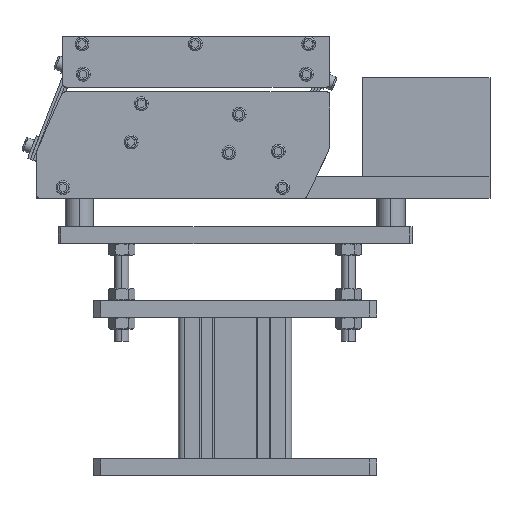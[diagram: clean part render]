
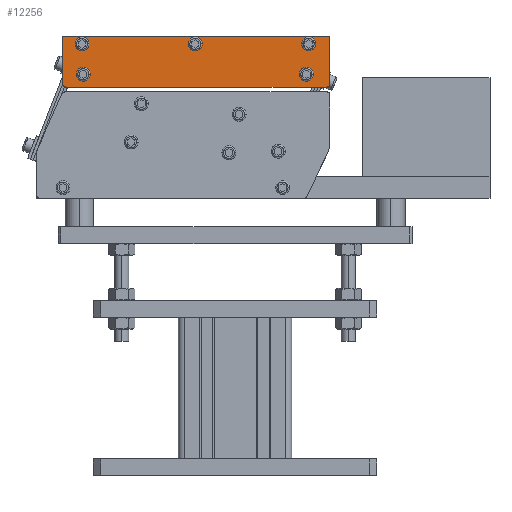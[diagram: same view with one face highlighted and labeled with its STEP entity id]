
A CAD part, top view. The second image highlights one B-rep face of the part: STEP entity #12256.
In plain terms, the highlighted planar face has unit normal (0, 0, 1).
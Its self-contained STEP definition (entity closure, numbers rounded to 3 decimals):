
#130 = AXIS2_PLACEMENT_3D ( 'NONE', #16490, #13860, #25526 ) ;
#202 = CARTESIAN_POINT ( 'NONE',  ( -5804.747, -7549.499, 8. ) ) ;
#229 = EDGE_CURVE ( 'NONE', #10073, #8629, #21841, .T. ) ;
#308 = EDGE_CURVE ( 'NONE', #15189, #6983, #13930, .T. ) ;
#1812 = DIRECTION ( 'NONE',  ( 0., 1., 0. ) ) ;
#1941 = CARTESIAN_POINT ( 'NONE',  ( -5784.589, -7556.501, 8. ) ) ;
#2213 = EDGE_CURVE ( 'NONE', #35814, #37201, #11358, .T. ) ;
#2696 = EDGE_CURVE ( 'NONE', #15227, #27645, #9516, .T. ) ;
#2786 = EDGE_CURVE ( 'NONE', #5224, #29500, #12561, .T. ) ;
#3249 = CIRCLE ( 'NONE', #19123, 3.5 ) ;
#3277 = ORIENTED_EDGE ( 'NONE', *, *, #32266, .F. ) ;
#4000 = CIRCLE ( 'NONE', #36445, 3.5 ) ;
#4519 = EDGE_CURVE ( 'NONE', #37201, #15331, #4683, .T. ) ;
#4530 = CARTESIAN_POINT ( 'NONE',  ( -5799.663, -7528.099, 8. ) ) ;
#4683 = LINE ( 'NONE', #7154, #18748 ) ;
#5049 = DIRECTION ( 'NONE',  ( 0., 0., -1. ) ) ;
#5149 = DIRECTION ( 'NONE',  ( 0., 0., 1. ) ) ;
#5224 = VERTEX_POINT ( 'NONE', #202 ) ;
#5305 = EDGE_LOOP ( 'NONE', ( #12774, #37015 ) ) ;
#5935 = CARTESIAN_POINT ( 'NONE',  ( -5958.747, -7549.499, 8. ) ) ;
#5987 = CARTESIAN_POINT ( 'NONE',  ( -5796.163, -7528.099, 8. ) ) ;
#6071 = CARTESIAN_POINT ( 'NONE',  ( -5786.589, -7558.501, 8. ) ) ;
#6268 = ORIENTED_EDGE ( 'NONE', *, *, #4519, .F. ) ;
#6296 = ORIENTED_EDGE ( 'NONE', *, *, #25143, .F. ) ;
#6494 = ORIENTED_EDGE ( 'NONE', *, *, #11971, .F. ) ;
#6685 = DIRECTION ( 'NONE',  ( 0., 0., 1. ) ) ;
#6787 = EDGE_CURVE ( 'NONE', #11610, #15908, #25481, .T. ) ;
#6820 = DIRECTION ( 'NONE',  ( -1., 0., 0. ) ) ;
#6983 = VERTEX_POINT ( 'NONE', #5987 ) ;
#7154 = CARTESIAN_POINT ( 'NONE',  ( -5973.317, -7556.501, 8. ) ) ;
#7678 = AXIS2_PLACEMENT_3D ( 'NONE', #29052, #5149, #21145 ) ;
#8100 = FACE_BOUND ( 'NONE', #32851, .T. ) ;
#8110 = CARTESIAN_POINT ( 'NONE',  ( -5786.589, -7556.501, 8. ) ) ;
#8312 = AXIS2_PLACEMENT_3D ( 'NONE', #34064, #31169, #25620 ) ;
#8629 = VERTEX_POINT ( 'NONE', #35613 ) ;
#8653 = ORIENTED_EDGE ( 'NONE', *, *, #229, .F. ) ;
#8883 = EDGE_LOOP ( 'NONE', ( #29638, #3277, #21966, #6268, #14769, #22287 ) ) ;
#8927 = EDGE_CURVE ( 'NONE', #29500, #5224, #3249, .T. ) ;
#9516 = CIRCLE ( 'NONE', #8312, 3.5 ) ;
#9578 = CARTESIAN_POINT ( 'NONE',  ( -5971.317, -7558.501, 8. ) ) ;
#9693 = DIRECTION ( 'NONE',  ( 0., 0., 1. ) ) ;
#9808 = CARTESIAN_POINT ( 'NONE',  ( -5955.247, -7549.499, 8. ) ) ;
#10073 = VERTEX_POINT ( 'NONE', #25933 ) ;
#10254 = AXIS2_PLACEMENT_3D ( 'NONE', #15658, #33507, #24680 ) ;
#10264 = CARTESIAN_POINT ( 'NONE',  ( -5784.589, -7522.499, 8. ) ) ;
#10267 = CARTESIAN_POINT ( 'NONE',  ( -5971.317, -7558.501, 8. ) ) ;
#10409 = FACE_BOUND ( 'NONE', #14231, .T. ) ;
#10481 = VERTEX_POINT ( 'NONE', #11070 ) ;
#11070 = CARTESIAN_POINT ( 'NONE',  ( -5876.163, -7528.099, 8. ) ) ;
#11358 = CIRCLE ( 'NONE', #24156, 2. ) ;
#11610 = VERTEX_POINT ( 'NONE', #1941 ) ;
#11669 = ORIENTED_EDGE ( 'NONE', *, *, #308, .F. ) ;
#11865 = VERTEX_POINT ( 'NONE', #10264 ) ;
#11971 = EDGE_CURVE ( 'NONE', #6983, #15189, #13532, .T. ) ;
#12204 = DIRECTION ( 'NONE',  ( 0., 0., 1. ) ) ;
#12256 = ADVANCED_FACE ( 'NONE', ( #34331, #16686, #31260, #19370, #8100, #10409 ), #33964, .F. ) ;
#12304 = ORIENTED_EDGE ( 'NONE', *, *, #2696, .F. ) ;
#12561 = CIRCLE ( 'NONE', #7678, 3.5 ) ;
#12662 = VERTEX_POINT ( 'NONE', #21817 ) ;
#12774 = ORIENTED_EDGE ( 'NONE', *, *, #2786, .F. ) ;
#12828 = DIRECTION ( 'NONE',  ( -1., 0., 0. ) ) ;
#12946 = CIRCLE ( 'NONE', #32489, 3.5 ) ;
#13532 = CIRCLE ( 'NONE', #28799, 3.5 ) ;
#13853 = CARTESIAN_POINT ( 'NONE',  ( -5971.317, -7556.501, 8. ) ) ;
#13860 = DIRECTION ( 'NONE',  ( 0., 0., 1. ) ) ;
#13866 = DIRECTION ( 'NONE',  ( -1., 0., 0. ) ) ;
#13930 = CIRCLE ( 'NONE', #32332, 3.5 ) ;
#14231 = EDGE_LOOP ( 'NONE', ( #30317, #12304 ) ) ;
#14769 = ORIENTED_EDGE ( 'NONE', *, *, #2213, .F. ) ;
#15189 = VERTEX_POINT ( 'NONE', #26677 ) ;
#15227 = VERTEX_POINT ( 'NONE', #9808 ) ;
#15331 = VERTEX_POINT ( 'NONE', #15348 ) ;
#15348 = CARTESIAN_POINT ( 'NONE',  ( -5973.317, -7522.499, 8. ) ) ;
#15658 = CARTESIAN_POINT ( 'NONE',  ( -5959.663, -7528.099, 8. ) ) ;
#15768 = CARTESIAN_POINT ( 'NONE',  ( -5971.317, -7556.501, 8. ) ) ;
#15908 = VERTEX_POINT ( 'NONE', #6071 ) ;
#16490 = CARTESIAN_POINT ( 'NONE',  ( -5879.663, -7528.099, 8. ) ) ;
#16686 = FACE_BOUND ( 'NONE', #30272, .T. ) ;
#16831 = ORIENTED_EDGE ( 'NONE', *, *, #27765, .F. ) ;
#17276 = CARTESIAN_POINT ( 'NONE',  ( -5784.589, -7556.501, 8. ) ) ;
#18096 = DIRECTION ( 'NONE',  ( -1., 0., 0. ) ) ;
#18317 = CARTESIAN_POINT ( 'NONE',  ( -5797.747, -7549.499, 8. ) ) ;
#18326 = DIRECTION ( 'NONE',  ( -1., 0., 0. ) ) ;
#18748 = VECTOR ( 'NONE', #1812, 1000. ) ;
#18910 = EDGE_CURVE ( 'NONE', #15908, #35814, #35820, .T. ) ;
#19037 = DIRECTION ( 'NONE',  ( 0., 0., 1. ) ) ;
#19123 = AXIS2_PLACEMENT_3D ( 'NONE', #23681, #12204, #18096 ) ;
#19323 = EDGE_CURVE ( 'NONE', #27645, #15227, #36779, .T. ) ;
#19370 = FACE_OUTER_BOUND ( 'NONE', #8883, .T. ) ;
#20876 = EDGE_CURVE ( 'NONE', #12662, #10481, #12946, .T. ) ;
#21145 = DIRECTION ( 'NONE',  ( -1., 0., 0. ) ) ;
#21794 = CARTESIAN_POINT ( 'NONE',  ( -5959.663, -7528.099, 8. ) ) ;
#21817 = CARTESIAN_POINT ( 'NONE',  ( -5883.163, -7528.099, 8. ) ) ;
#21841 = CIRCLE ( 'NONE', #10254, 3.5 ) ;
#21966 = ORIENTED_EDGE ( 'NONE', *, *, #28605, .F. ) ;
#22068 = CARTESIAN_POINT ( 'NONE',  ( -5962.247, -7549.499, 8. ) ) ;
#22287 = ORIENTED_EDGE ( 'NONE', *, *, #18910, .F. ) ;
#22658 = LINE ( 'NONE', #17276, #33656 ) ;
#23681 = CARTESIAN_POINT ( 'NONE',  ( -5801.247, -7549.499, 8. ) ) ;
#24083 = DIRECTION ( 'NONE',  ( 0., 0., 1. ) ) ;
#24156 = AXIS2_PLACEMENT_3D ( 'NONE', #15768, #33025, #33230 ) ;
#24680 = DIRECTION ( 'NONE',  ( -1., 0., 0. ) ) ;
#24745 = DIRECTION ( 'NONE',  ( -1., 0., 0. ) ) ;
#25053 = DIRECTION ( 'NONE',  ( 0., 0., 1. ) ) ;
#25143 = EDGE_CURVE ( 'NONE', #8629, #10073, #4000, .T. ) ;
#25481 = CIRCLE ( 'NONE', #35864, 2. ) ;
#25526 = DIRECTION ( 'NONE',  ( -1., 0., 0. ) ) ;
#25620 = DIRECTION ( 'NONE',  ( -1., 0., 0. ) ) ;
#25861 = VECTOR ( 'NONE', #29572, 1000. ) ;
#25933 = CARTESIAN_POINT ( 'NONE',  ( -5963.163, -7528.099, 8. ) ) ;
#25954 = LINE ( 'NONE', #34958, #25861 ) ;
#26677 = CARTESIAN_POINT ( 'NONE',  ( -5803.163, -7528.099, 8. ) ) ;
#26773 = DIRECTION ( 'NONE',  ( -1., 0., 0. ) ) ;
#27645 = VERTEX_POINT ( 'NONE', #22068 ) ;
#27765 = EDGE_CURVE ( 'NONE', #10481, #12662, #36184, .T. ) ;
#28204 = AXIS2_PLACEMENT_3D ( 'NONE', #5935, #24083, #26773 ) ;
#28605 = EDGE_CURVE ( 'NONE', #15331, #11865, #25954, .T. ) ;
#28606 = DIRECTION ( 'NONE',  ( 0., -1., 0. ) ) ;
#28799 = AXIS2_PLACEMENT_3D ( 'NONE', #4530, #19037, #36897 ) ;
#28825 = VECTOR ( 'NONE', #12828, 1000. ) ;
#29029 = CARTESIAN_POINT ( 'NONE',  ( -5973.317, -7556.501, 8. ) ) ;
#29052 = CARTESIAN_POINT ( 'NONE',  ( -5801.247, -7549.499, 8. ) ) ;
#29447 = AXIS2_PLACEMENT_3D ( 'NONE', #13853, #5049, #24745 ) ;
#29500 = VERTEX_POINT ( 'NONE', #18317 ) ;
#29572 = DIRECTION ( 'NONE',  ( 1., 0., 0. ) ) ;
#29638 = ORIENTED_EDGE ( 'NONE', *, *, #6787, .F. ) ;
#30272 = EDGE_LOOP ( 'NONE', ( #33099, #16831 ) ) ;
#30317 = ORIENTED_EDGE ( 'NONE', *, *, #19323, .F. ) ;
#31169 = DIRECTION ( 'NONE',  ( 0., 0., 1. ) ) ;
#31260 = FACE_BOUND ( 'NONE', #32635, .T. ) ;
#32266 = EDGE_CURVE ( 'NONE', #11865, #11610, #22658, .T. ) ;
#32332 = AXIS2_PLACEMENT_3D ( 'NONE', #32921, #6685, #18326 ) ;
#32489 = AXIS2_PLACEMENT_3D ( 'NONE', #35931, #9693, #6820 ) ;
#32635 = EDGE_LOOP ( 'NONE', ( #8653, #6296 ) ) ;
#32851 = EDGE_LOOP ( 'NONE', ( #11669, #6494 ) ) ;
#32921 = CARTESIAN_POINT ( 'NONE',  ( -5799.663, -7528.099, 8. ) ) ;
#33025 = DIRECTION ( 'NONE',  ( 0., 0., -1. ) ) ;
#33099 = ORIENTED_EDGE ( 'NONE', *, *, #20876, .F. ) ;
#33230 = DIRECTION ( 'NONE',  ( -1., 0., 0. ) ) ;
#33507 = DIRECTION ( 'NONE',  ( 0., 0., 1. ) ) ;
#33656 = VECTOR ( 'NONE', #28606, 1000. ) ;
#33964 = PLANE ( 'NONE',  #29447 ) ;
#34064 = CARTESIAN_POINT ( 'NONE',  ( -5958.747, -7549.499, 8. ) ) ;
#34331 = FACE_BOUND ( 'NONE', #5305, .T. ) ;
#34958 = CARTESIAN_POINT ( 'NONE',  ( -5971.317, -7522.499, 8. ) ) ;
#35613 = CARTESIAN_POINT ( 'NONE',  ( -5956.163, -7528.099, 8. ) ) ;
#35814 = VERTEX_POINT ( 'NONE', #10267 ) ;
#35820 = LINE ( 'NONE', #9578, #28825 ) ;
#35864 = AXIS2_PLACEMENT_3D ( 'NONE', #8110, #37238, #13866 ) ;
#35931 = CARTESIAN_POINT ( 'NONE',  ( -5879.663, -7528.099, 8. ) ) ;
#36173 = DIRECTION ( 'NONE',  ( -1., 0., 0. ) ) ;
#36184 = CIRCLE ( 'NONE', #130, 3.5 ) ;
#36445 = AXIS2_PLACEMENT_3D ( 'NONE', #21794, #25053, #36173 ) ;
#36779 = CIRCLE ( 'NONE', #28204, 3.5 ) ;
#36897 = DIRECTION ( 'NONE',  ( -1., 0., 0. ) ) ;
#37015 = ORIENTED_EDGE ( 'NONE', *, *, #8927, .F. ) ;
#37201 = VERTEX_POINT ( 'NONE', #29029 ) ;
#37238 = DIRECTION ( 'NONE',  ( 0., 0., -1. ) ) ;
